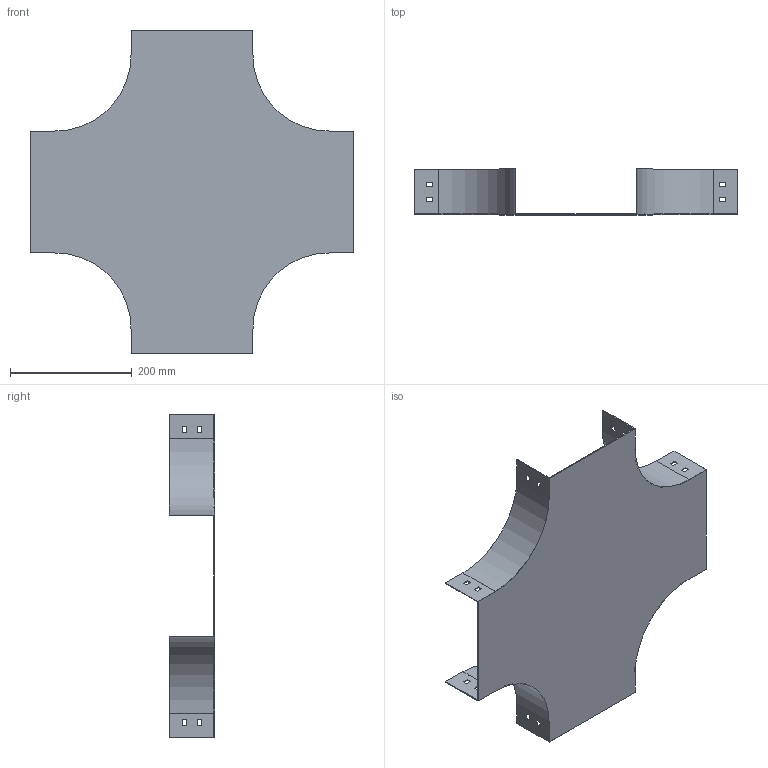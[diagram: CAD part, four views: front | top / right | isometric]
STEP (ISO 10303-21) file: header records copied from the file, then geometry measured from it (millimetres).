
FILE_DESCRIPTION (( 'STEP AP214' ), '1' );
FILE_NAME ('PC_207.step', '2025-07-16T09:22:11', ( '' ), ( '' ), 'SwSTEP 2.0', 'SolidWorks 2023', '' );
FILE_SCHEMA (( 'AUTOMOTIVE_DESIGN' ));
Length unit declared in the file: millimetre
Products named in the file (1): PC_207
Bounding box: 530 x 75 x 530 mm (x, y, z)
Volume: 398828.6 mm3; surface area: 536327.6 mm2
Topology: 1 solids, 1 shells, 98 faces, 288 edges, 192 vertices
Faces by surface type: plane 90, cylinder 8
Entity records: 3295 total; most frequent: CARTESIAN_POINT 579, ORIENTED_EDGE 576, DIRECTION 502, EDGE_CURVE 288, LINE 272, VECTOR 272, VERTEX_POINT 192, EDGE_LOOP 130
